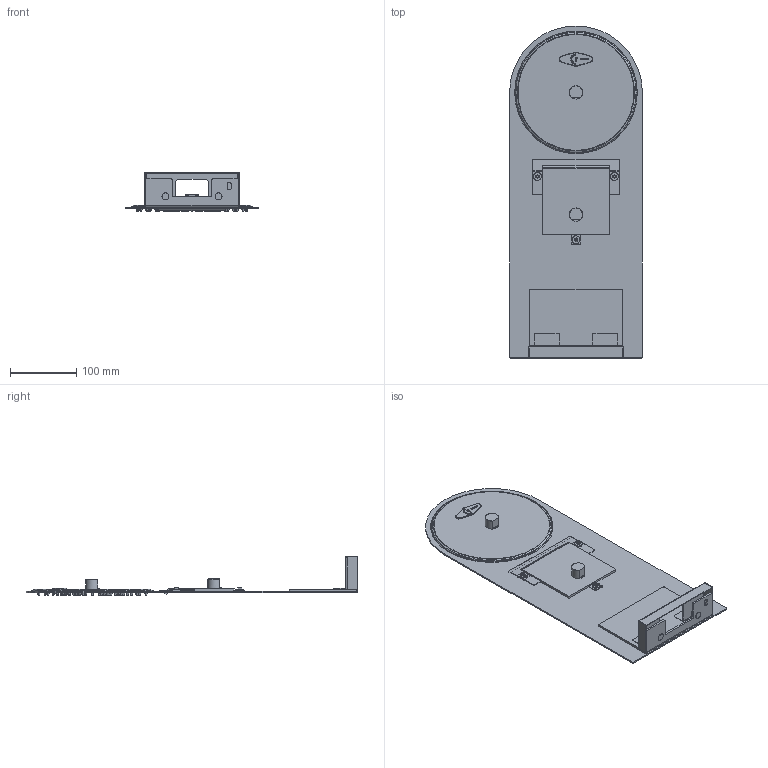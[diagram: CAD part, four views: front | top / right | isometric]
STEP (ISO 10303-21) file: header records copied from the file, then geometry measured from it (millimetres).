
FILE_DESCRIPTION((''),'2;1');
FILE_NAME('90617','2021-04-07T09:49:30',('carloff'),(''),'CREO PARAMETRIC BY PTC INC, 2018100','CREO PARAMETRIC BY PTC INC, 2018100','');
FILE_SCHEMA(('CONFIG_CONTROL_DESIGN'));
Length unit declared in the file: millimetre
Products named in the file (1): 90617
Bounding box: 200 x 500 x 59.8 mm (x, y, z)
Volume: 387776.9 mm3; surface area: 260142.9 mm2
Topology: 2 solids, 2 shells, 1401 faces, 3299 edges, 2050 vertices
Faces by surface type: torus 566, plane 442, cylinder 200, extrusion 169, cone 20, bspline 4
Entity records: 46131 total; most frequent: CARTESIAN_POINT 13378, DIRECTION 7124, ORIENTED_EDGE 6598, EDGE_CURVE 3299, AXIS2_PLACEMENT_3D 2874, VERTEX_POINT 2050, CIRCLE 1646, EDGE_LOOP 1557
